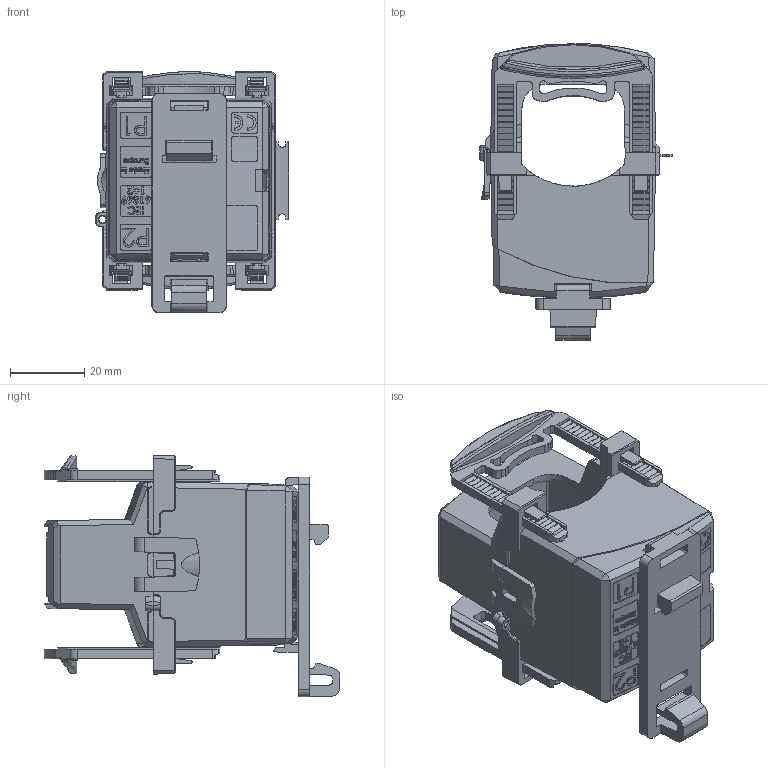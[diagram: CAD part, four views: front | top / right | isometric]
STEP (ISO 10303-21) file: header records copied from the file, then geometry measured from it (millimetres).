
FILE_DESCRIPTION (( 'STEP AP214' ), '1' );
FILE_NAME ('KBR28_kpl_01.STEP', '2018-08-01T09:02:48', ( '' ), ( '' ), 'SwSTEP 2.0', 'SolidWorks 2016', '' );
FILE_SCHEMA (( 'AUTOMOTIVE_DESIGN' ));
Length unit declared in the file: millimetre
Products named in the file (12): KBR28_kpl_01; KBR28-Gehäuse-OT_01; KBR28_Gehäuse-UT; KBR28_Kern_3.5524; KBR28_Kernabdeckung_OT_2.8363_01; KBR28_Kernabdeckung_UT_2.8362; KBR28_Wicklung; KBR28_Kern_kpl; KBR28_Innendeckel_2.8364; KBR28_Fixierspange_2.8359; KBR18L-KBR28_Schnappbefestigung_fuer_Hutschiene_2.8360_01; Standardtypenschild_22x26
Assembly tree (12 placements, depth 3):
  KBR28_kpl_01
    KBR28-Gehäuse-OT_01
    KBR28_Gehäuse-UT
    KBR28_Kern_kpl
      KBR28_Kern_3.5524
      KBR28_Kernabdeckung_OT_2.8363_01
      KBR28_Kernabdeckung_UT_2.8362
      KBR28_Wicklung
    KBR28_Innendeckel_2.8364
    KBR28_Fixierspange_2.8359  x2
    KBR18L-KBR28_Schnappbefestigung_fuer_Hutschiene_2.8360_01
    Standardtypenschild_22x26
Bounding box: 52.05 x 79.72 x 65.15 mm (x, y, z)
Volume: 73927.5 mm3; surface area: 66641 mm2
Topology: 12 solids, 12 shells, 2090 faces, 5849 edges, 3835 vertices
Faces by surface type: plane 1394, cylinder 339, bspline 264, cone 67, torus 14, sphere 12
Full cylindrical faces by diameter (mm): 2 x1, 3 x2
Entity records: 66453 total; most frequent: CARTESIAN_POINT 23020, ORIENTED_EDGE 10008, DIRECTION 7346, EDGE_CURVE 5004, LINE 3412, VECTOR 3412, VERTEX_POINT 3290, AXIS2_PLACEMENT_3D 1967
